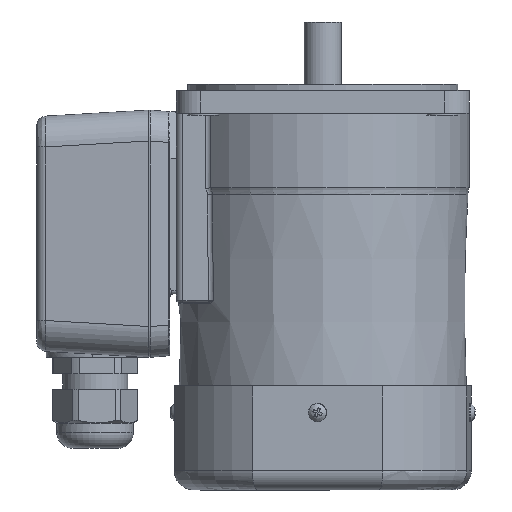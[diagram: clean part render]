
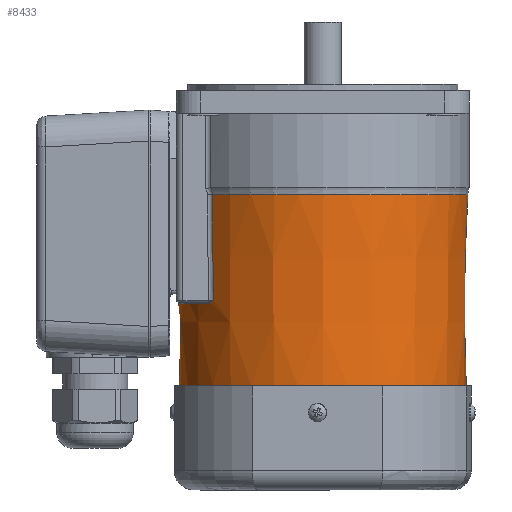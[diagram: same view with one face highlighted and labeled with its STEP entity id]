
A CAD part, front view. The second image highlights one B-rep face of the part: STEP entity #8433.
In plain terms, the highlighted conical face has half-angle 0.48 degrees and reference radius 44.329 mm.
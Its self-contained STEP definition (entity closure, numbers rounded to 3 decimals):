
#112=CONICAL_SURFACE('',#9286,44.329,0.008);
#331=B_SPLINE_CURVE_WITH_KNOTS('',3,(#16736,#16737,#16738,#16739),
 .UNSPECIFIED.,.F.,.F.,(4,4),(-3.246,0.),.UNSPECIFIED.);
#342=B_SPLINE_CURVE_WITH_KNOTS('',3,(#16904,#16905,#16906,#16907),
 .UNSPECIFIED.,.F.,.F.,(4,4),(-6.855,-3.609),
 .UNSPECIFIED.);
#346=B_SPLINE_CURVE_WITH_KNOTS('',3,(#17070,#17071,#17072,#17073,#17074,
#17075,#17076,#17077),.UNSPECIFIED.,.F.,.F.,(4,1,1,2,4),(-0.207,
-0.124,-0.083,0.,0.001),.UNSPECIFIED.);
#347=B_SPLINE_CURVE_WITH_KNOTS('',3,(#17138,#17139,#17140,#17141,#17142,
#17143,#17144,#17145,#17146,#17147,#17148,#17149,#17150,#17151,#17152,#17153,
#17154,#17155,#17156,#17157,#17158,#17159),.UNSPECIFIED.,.F.,.F.,(4,3,3,
3,3,3,3,4),(-1.084,-0.854,-0.774,-0.54,
-0.465,-0.248,-0.031,0.),
 .UNSPECIFIED.);
#348=B_SPLINE_CURVE_WITH_KNOTS('',3,(#17195,#17196,#17197,#17198,#17199,
#17200,#17201,#17202),.UNSPECIFIED.,.F.,.F.,(4,2,1,1,4),(-0.208,
-0.207,-0.083,-0.041,0.),
 .UNSPECIFIED.);
#1062=LINE('',#17204,#1707);
#1707=VECTOR('',#11567,44.329);
#2362=FACE_OUTER_BOUND('',#2890,.T.);
#2890=EDGE_LOOP('',(#7672,#7673,#7674,#7675,#7676,#7677,#7678,#7679,#7680,
#7681,#7682,#7683,#7684,#7685));
#2978=CIRCLE('',#8718,44.115);
#3191=CIRCLE('',#9245,44.608);
#3192=CIRCLE('',#9246,44.608);
#3210=CIRCLE('',#9276,1.583);
#3213=CIRCLE('',#9279,1.583);
#3215=CIRCLE('',#9282,44.327);
#3217=CIRCLE('',#9285,44.327);
#3480=VERTEX_POINT('',#13575);
#3975=VERTEX_POINT('',#16729);
#3977=VERTEX_POINT('',#16735);
#3984=VERTEX_POINT('',#16818);
#3985=VERTEX_POINT('',#16838);
#3989=VERTEX_POINT('',#16895);
#4002=VERTEX_POINT('',#17033);
#4003=VERTEX_POINT('',#17035);
#4004=VERTEX_POINT('',#17098);
#4005=VERTEX_POINT('',#17100);
#4006=VERTEX_POINT('',#17104);
#4007=VERTEX_POINT('',#17137);
#4406=EDGE_CURVE('',#3480,#3480,#2978,.T.);
#5173=EDGE_CURVE('',#3975,#3977,#331,.T.);
#5186=EDGE_CURVE('',#3977,#3985,#3191,.T.);
#5187=EDGE_CURVE('',#3985,#3984,#3192,.T.);
#5194=EDGE_CURVE('',#3984,#3989,#342,.T.);
#5222=EDGE_CURVE('',#4003,#4002,#3210,.T.);
#5223=EDGE_CURVE('',#4002,#3975,#346,.T.);
#5226=EDGE_CURVE('',#4005,#4004,#3213,.T.);
#5228=EDGE_CURVE('',#4004,#4006,#3215,.T.);
#5229=EDGE_CURVE('',#4006,#4007,#347,.T.);
#5231=EDGE_CURVE('',#4007,#4003,#3217,.T.);
#5232=EDGE_CURVE('',#3989,#4005,#348,.T.);
#5233=EDGE_CURVE('',#3985,#3480,#1062,.T.);
#7672=ORIENTED_EDGE('',*,*,#5232,.F.);
#7673=ORIENTED_EDGE('',*,*,#5194,.F.);
#7674=ORIENTED_EDGE('',*,*,#5187,.F.);
#7675=ORIENTED_EDGE('',*,*,#5233,.T.);
#7676=ORIENTED_EDGE('',*,*,#4406,.F.);
#7677=ORIENTED_EDGE('',*,*,#5233,.F.);
#7678=ORIENTED_EDGE('',*,*,#5186,.F.);
#7679=ORIENTED_EDGE('',*,*,#5173,.F.);
#7680=ORIENTED_EDGE('',*,*,#5223,.F.);
#7681=ORIENTED_EDGE('',*,*,#5222,.F.);
#7682=ORIENTED_EDGE('',*,*,#5231,.F.);
#7683=ORIENTED_EDGE('',*,*,#5229,.F.);
#7684=ORIENTED_EDGE('',*,*,#5228,.F.);
#7685=ORIENTED_EDGE('',*,*,#5226,.F.);
#8433=ADVANCED_FACE('',(#2362),#112,.T.);
#8718=AXIS2_PLACEMENT_3D('',#13576,#10005,#10006);
#9245=AXIS2_PLACEMENT_3D('',#16839,#11474,#11475);
#9246=AXIS2_PLACEMENT_3D('',#16840,#11476,#11477);
#9276=AXIS2_PLACEMENT_3D('',#17037,#11545,#11546);
#9279=AXIS2_PLACEMENT_3D('',#17102,#11551,#11552);
#9282=AXIS2_PLACEMENT_3D('',#17106,#11557,#11558);
#9285=AXIS2_PLACEMENT_3D('',#17162,#11563,#11564);
#9286=AXIS2_PLACEMENT_3D('',#17203,#11565,#11566);
#10005=DIRECTION('center_axis',(0.,0.,-1.));
#10006=DIRECTION('ref_axis',(0.,-1.,0.));
#11474=DIRECTION('center_axis',(0.,0.,1.));
#11475=DIRECTION('ref_axis',(0.,-1.,0.));
#11476=DIRECTION('center_axis',(0.,0.,1.));
#11477=DIRECTION('ref_axis',(0.,-1.,0.));
#11545=DIRECTION('center_axis',(-0.786,-0.618,0.027));
#11546=DIRECTION('ref_axis',(0.043,-0.098,-0.994));
#11551=DIRECTION('center_axis',(-0.786,0.618,0.027));
#11552=DIRECTION('ref_axis',(-0.021,0.017,-1.));
#11557=DIRECTION('center_axis',(0.,0.,1.));
#11558=DIRECTION('ref_axis',(-1.,0.,0.));
#11563=DIRECTION('center_axis',(0.,0.,1.));
#11564=DIRECTION('ref_axis',(-1.,0.,0.));
#11565=DIRECTION('center_axis',(0.,0.,1.));
#11566=DIRECTION('ref_axis',(0.,-1.,0.));
#11567=DIRECTION('',(0.,-0.008,-1.));
#13575=CARTESIAN_POINT('',(0.,44.115,-90.8));
#13576=CARTESIAN_POINT('Origin',(0.,0.,-90.8));
#16729=CARTESIAN_POINT('',(-33.625,-28.897,-64.504));
#16735=CARTESIAN_POINT('',(-33.977,-28.904,-32.049));
#16736=CARTESIAN_POINT('Ctrl Pts',(-33.625,-28.897,
-64.504));
#16737=CARTESIAN_POINT('Ctrl Pts',(-33.743,-28.899,
-53.686));
#16738=CARTESIAN_POINT('Ctrl Pts',(-33.86,-28.902,
-42.867));
#16739=CARTESIAN_POINT('Ctrl Pts',(-33.977,-28.904,
-32.049));
#16818=CARTESIAN_POINT('',(-33.977,28.904,-32.049));
#16838=CARTESIAN_POINT('',(0.,44.608,-32.049));
#16839=CARTESIAN_POINT('Origin',(0.,0.,-32.049));
#16840=CARTESIAN_POINT('Origin',(0.,0.,-32.049));
#16895=CARTESIAN_POINT('',(-33.627,28.894,-64.505));
#16904=CARTESIAN_POINT('Ctrl Pts',(-33.977,28.904,-32.049));
#16905=CARTESIAN_POINT('Ctrl Pts',(-33.86,28.902,-42.867));
#16906=CARTESIAN_POINT('Ctrl Pts',(-33.743,28.899,-53.686));
#16907=CARTESIAN_POINT('Ctrl Pts',(-33.625,28.897,-64.504));
#17033=CARTESIAN_POINT('',(-34.75,-27.52,-65.487));
#17035=CARTESIAN_POINT('',(-34.852,-27.391,-65.496));
#17037=CARTESIAN_POINT('Origin',(-34.818,-27.365,-63.914));
#17070=CARTESIAN_POINT('Ctrl Pts',(-34.75,-27.52,
-65.487));
#17071=CARTESIAN_POINT('Ctrl Pts',(-34.582,-27.733,-65.459));
#17072=CARTESIAN_POINT('Ctrl Pts',(-34.335,-28.04,
-65.314));
#17073=CARTESIAN_POINT('Ctrl Pts',(-33.968,-28.489,
-64.949));
#17074=CARTESIAN_POINT('Ctrl Pts',(-33.764,-28.733,
-64.684));
#17075=CARTESIAN_POINT('Ctrl Pts',(-33.627,-28.894,
-64.507));
#17076=CARTESIAN_POINT('Ctrl Pts',(-33.626,-28.895,-64.505));
#17077=CARTESIAN_POINT('Ctrl Pts',(-33.625,-28.897,
-64.504));
#17098=CARTESIAN_POINT('',(-34.852,27.391,-65.496));
#17100=CARTESIAN_POINT('',(-34.75,27.52,-65.487));
#17102=CARTESIAN_POINT('Origin',(-34.818,27.365,-63.914));
#17104=CARTESIAN_POINT('',(-44.004,5.348,-65.496));
#17106=CARTESIAN_POINT('Origin',(0.,0.,-65.496));
#17137=CARTESIAN_POINT('',(-44.004,-5.348,-65.496));
#17138=CARTESIAN_POINT('Ctrl Pts',(-44.004,5.348,-65.496));
#17139=CARTESIAN_POINT('Ctrl Pts',(-44.095,4.596,-65.496));
#17140=CARTESIAN_POINT('Ctrl Pts',(-44.167,3.841,-65.484));
#17141=CARTESIAN_POINT('Ctrl Pts',(-44.22,3.085,-65.472));
#17142=CARTESIAN_POINT('Ctrl Pts',(-44.239,2.822,-65.468));
#17143=CARTESIAN_POINT('Ctrl Pts',(-44.255,2.56,-65.464));
#17144=CARTESIAN_POINT('Ctrl Pts',(-44.268,2.297,-65.46));
#17145=CARTESIAN_POINT('Ctrl Pts',(-44.308,1.524,-65.448));
#17146=CARTESIAN_POINT('Ctrl Pts',(-44.328,0.749,-65.441));
#17147=CARTESIAN_POINT('Ctrl Pts',(-44.328,-0.025,
-65.441));
#17148=CARTESIAN_POINT('Ctrl Pts',(-44.328,-0.272,
-65.441));
#17149=CARTESIAN_POINT('Ctrl Pts',(-44.326,-0.519,
-65.442));
#17150=CARTESIAN_POINT('Ctrl Pts',(-44.321,-0.766,
-65.443));
#17151=CARTESIAN_POINT('Ctrl Pts',(-44.309,-1.478,
-65.448));
#17152=CARTESIAN_POINT('Ctrl Pts',(-44.279,-2.191,
-65.459));
#17153=CARTESIAN_POINT('Ctrl Pts',(-44.233,-2.902,
-65.471));
#17154=CARTESIAN_POINT('Ctrl Pts',(-44.186,-3.616,
-65.482));
#17155=CARTESIAN_POINT('Ctrl Pts',(-44.121,-4.328,
-65.493));
#17156=CARTESIAN_POINT('Ctrl Pts',(-44.04,-5.039,
-65.495));
#17157=CARTESIAN_POINT('Ctrl Pts',(-44.028,-5.142,
-65.496));
#17158=CARTESIAN_POINT('Ctrl Pts',(-44.016,-5.245,
-65.496));
#17159=CARTESIAN_POINT('Ctrl Pts',(-44.004,-5.348,
-65.496));
#17162=CARTESIAN_POINT('Origin',(0.,0.,-65.496));
#17195=CARTESIAN_POINT('Ctrl Pts',(-33.625,28.897,-64.504));
#17196=CARTESIAN_POINT('Ctrl Pts',(-33.626,28.895,-64.505));
#17197=CARTESIAN_POINT('Ctrl Pts',(-33.627,28.894,-64.507));
#17198=CARTESIAN_POINT('Ctrl Pts',(-33.832,28.653,-64.772));
#17199=CARTESIAN_POINT('Ctrl Pts',(-34.104,28.325,-65.128));
#17200=CARTESIAN_POINT('Ctrl Pts',(-34.498,27.837,-65.41));
#17201=CARTESIAN_POINT('Ctrl Pts',(-34.666,27.627,-65.473));
#17202=CARTESIAN_POINT('Ctrl Pts',(-34.75,27.52,-65.487));
#17203=CARTESIAN_POINT('Origin',(0.,0.,-65.328));
#17204=CARTESIAN_POINT('',(0.,44.329,-65.328));
